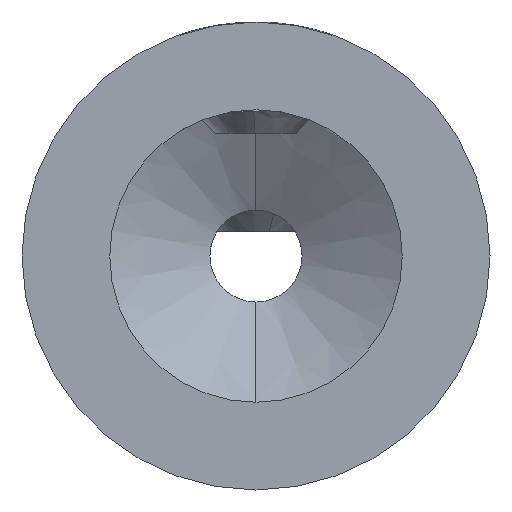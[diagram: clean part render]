
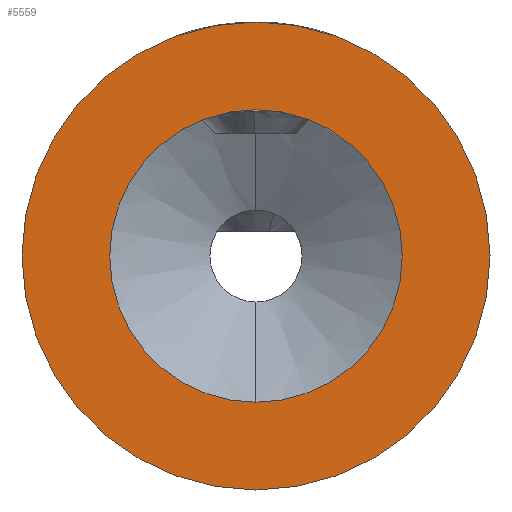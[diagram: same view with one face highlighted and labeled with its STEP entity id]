
A CAD part, front view. The second image highlights one B-rep face of the part: STEP entity #5559.
In plain terms, the highlighted planar face has unit normal (0, -1, 0).
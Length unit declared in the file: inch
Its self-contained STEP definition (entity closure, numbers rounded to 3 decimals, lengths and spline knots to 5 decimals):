
#51 = PLANE ( 'NONE',  #5546 ) ;
#151 = DIRECTION ( 'NONE',  ( 0., 0., -1. ) ) ;
#175 = DIRECTION ( 'NONE',  ( 0., 1., 0. ) ) ;
#192 = DIRECTION ( 'NONE',  ( 0., 0., 1. ) ) ;
#217 = DIRECTION ( 'NONE',  ( 0., 0., 1. ) ) ;
#277 = CARTESIAN_POINT ( 'NONE',  ( 0., 0., 0. ) ) ;
#1085 = CARTESIAN_POINT ( 'NONE',  ( 0., 0., 0. ) ) ;
#1192 = DIRECTION ( 'NONE',  ( 0., 1., 0. ) ) ;
#1231 = CIRCLE ( 'NONE', #5269, 0.3 ) ;
#1541 = CIRCLE ( 'NONE', #8148, 0.1875 ) ;
#1708 = FACE_BOUND ( 'NONE', #2270, .T. ) ;
#2012 = DIRECTION ( 'NONE',  ( 0., -1., 0. ) ) ;
#2270 = EDGE_LOOP ( 'NONE', ( #10235, #3610 ) ) ;
#2613 = ORIENTED_EDGE ( 'NONE', *, *, #7794, .F. ) ;
#3588 = CARTESIAN_POINT ( 'NONE',  ( 0., 0., -0.1875 ) ) ;
#3610 = ORIENTED_EDGE ( 'NONE', *, *, #9643, .F. ) ;
#3817 = AXIS2_PLACEMENT_3D ( 'NONE', #6666, #7479, #192 ) ;
#3998 = CIRCLE ( 'NONE', #3817, 0.3 ) ;
#4094 = CARTESIAN_POINT ( 'NONE',  ( 0., 0., -0.3 ) ) ;
#4154 = FACE_OUTER_BOUND ( 'NONE', #9199, .T. ) ;
#5157 = VERTEX_POINT ( 'NONE', #3588 ) ;
#5269 = AXIS2_PLACEMENT_3D ( 'NONE', #277, #1192, #9184 ) ;
#5546 = AXIS2_PLACEMENT_3D ( 'NONE', #7420, #175, #217 ) ;
#5559 = ADVANCED_FACE ( 'NONE', ( #1708, #4154 ), #51, .F. ) ;
#5781 = CARTESIAN_POINT ( 'NONE',  ( 0., 0., 0.3 ) ) ;
#5893 = VERTEX_POINT ( 'NONE', #4094 ) ;
#6252 = VERTEX_POINT ( 'NONE', #5781 ) ;
#6666 = CARTESIAN_POINT ( 'NONE',  ( 0., 0., 0. ) ) ;
#7420 = CARTESIAN_POINT ( 'NONE',  ( 0., 0., 0. ) ) ;
#7473 = CARTESIAN_POINT ( 'NONE',  ( 0., 0., 0. ) ) ;
#7479 = DIRECTION ( 'NONE',  ( 0., 1., 0. ) ) ;
#7608 = DIRECTION ( 'NONE',  ( 0., -1., 0. ) ) ;
#7794 = EDGE_CURVE ( 'NONE', #5893, #6252, #3998, .T. ) ;
#8148 = AXIS2_PLACEMENT_3D ( 'NONE', #1085, #7608, #10209 ) ;
#8555 = VERTEX_POINT ( 'NONE', #10210 ) ;
#9184 = DIRECTION ( 'NONE',  ( 0., 0., 1. ) ) ;
#9199 = EDGE_LOOP ( 'NONE', ( #2613, #10787 ) ) ;
#9643 = EDGE_CURVE ( 'NONE', #8555, #5157, #1541, .T. ) ;
#10063 = CIRCLE ( 'NONE', #11572, 0.1875 ) ;
#10209 = DIRECTION ( 'NONE',  ( 0., 0., -1. ) ) ;
#10210 = CARTESIAN_POINT ( 'NONE',  ( 0., 0., 0.1875 ) ) ;
#10235 = ORIENTED_EDGE ( 'NONE', *, *, #11663, .F. ) ;
#10787 = ORIENTED_EDGE ( 'NONE', *, *, #11743, .F. ) ;
#11572 = AXIS2_PLACEMENT_3D ( 'NONE', #7473, #2012, #151 ) ;
#11663 = EDGE_CURVE ( 'NONE', #5157, #8555, #10063, .T. ) ;
#11743 = EDGE_CURVE ( 'NONE', #6252, #5893, #1231, .T. ) ;
